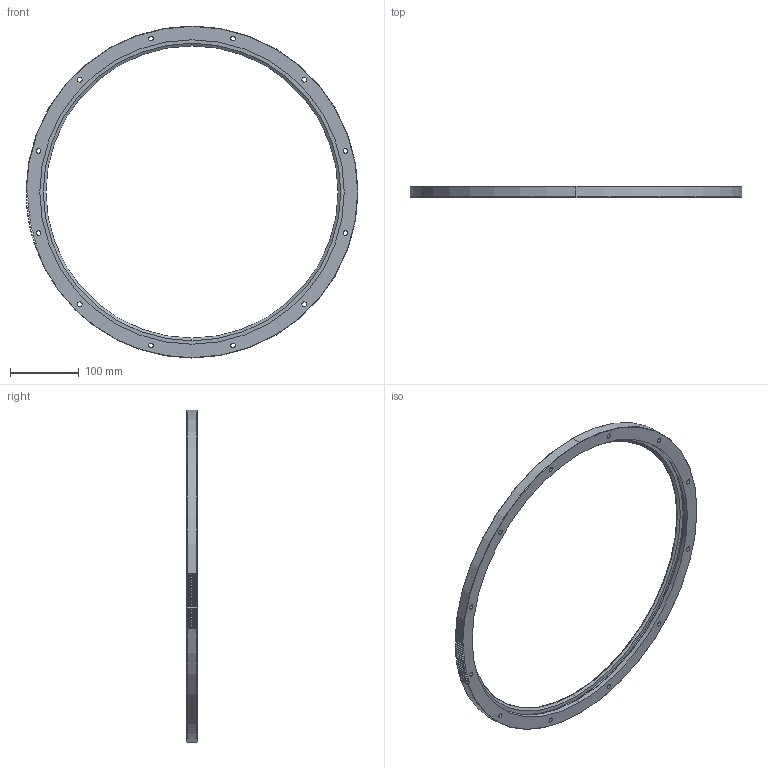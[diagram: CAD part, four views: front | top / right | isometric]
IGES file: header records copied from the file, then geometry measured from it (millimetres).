
Start section: 3D InterOp IGES (v. 2020 1.0.1), Spatial Corp. Copyright (c) 1999-2017.
Global section: file name: rim_482_r360_p.igs; native system: Spatial Corp.; preprocessor: 3D InterOp ACIS/IGES; author: TraceParts; organization: TraceParts S.A.; date: 20220624.062718; units: millimetre
Bounding box: 482.5 x 15.5 x 482.5 mm (x, y, z)
Surface area: 128093.9 mm2 (no closed solid volume)
Topology: 0 solids, 0 shells, 227 faces, 1246 edges, 1246 vertices
Faces by surface type: extrusion 118, revolution 109
